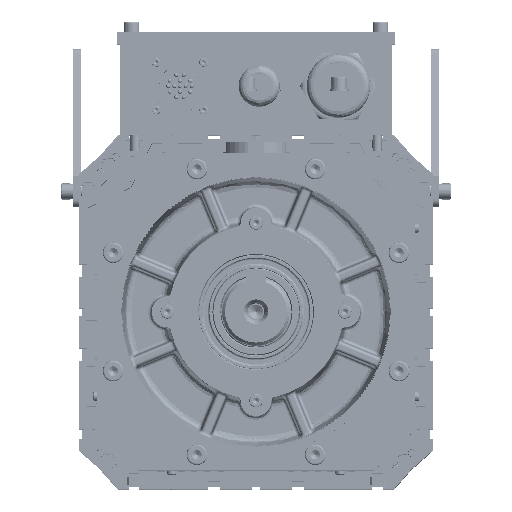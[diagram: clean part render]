
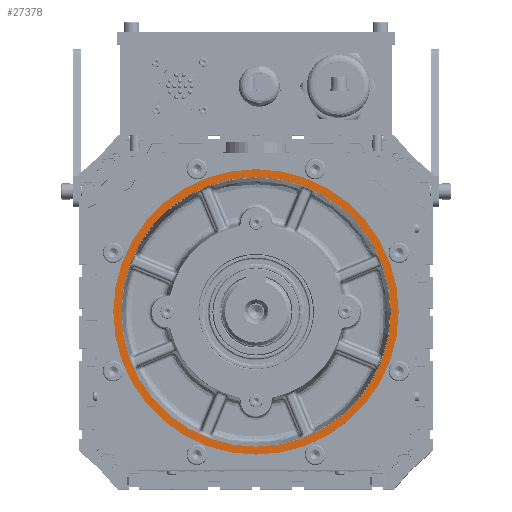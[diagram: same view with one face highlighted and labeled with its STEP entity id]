
A CAD part, top view. The second image highlights one B-rep face of the part: STEP entity #27378.
In plain terms, the highlighted planar face has unit normal (0, 0, 1) as drawn and (0, 0, -1) by its records, which use the part's own axes.
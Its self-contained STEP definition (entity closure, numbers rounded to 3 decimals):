
#1946 = CARTESIAN_POINT ( 'NONE',  ( -28.364, -115.305, 205. ) ) ;
#13423 = DIRECTION ( 'NONE',  ( 0., 0., 1. ) ) ;
#27378 = ADVANCED_FACE ( 'NONE', ( #136043, #110936 ), #33177, .F. ) ;
#30022 = ORIENTED_EDGE ( 'NONE', *, *, #156655, .F. ) ;
#33177 = PLANE ( 'NONE',  #43326 ) ;
#34958 = CIRCLE ( 'NONE', #63454, 85. ) ;
#36395 = EDGE_CURVE ( 'NONE', #96378, #187359, #152754, .T. ) ;
#43326 = AXIS2_PLACEMENT_3D ( 'NONE', #1946, #135421, #76626 ) ;
#52032 = AXIS2_PLACEMENT_3D ( 'NONE', #56883, #13423, #146318 ) ;
#53402 = DIRECTION ( 'NONE',  ( -1., 0., 0. ) ) ;
#56883 = CARTESIAN_POINT ( 'NONE',  ( -28.364, -25.305, 205. ) ) ;
#62925 = DIRECTION ( 'NONE',  ( 0., 0., -1. ) ) ;
#63454 = AXIS2_PLACEMENT_3D ( 'NONE', #166398, #62925, #178554 ) ;
#69366 = CIRCLE ( 'NONE', #137086, 90. ) ;
#76626 = DIRECTION ( 'NONE',  ( 1., 0., 0. ) ) ;
#79735 = EDGE_CURVE ( 'NONE', #141897, #100064, #188813, .T. ) ;
#80195 = EDGE_LOOP ( 'NONE', ( #93120, #154044 ) ) ;
#82126 = CARTESIAN_POINT ( 'NONE',  ( 56.636, -25.305, 205. ) ) ;
#93120 = ORIENTED_EDGE ( 'NONE', *, *, #79735, .F. ) ;
#94075 = EDGE_CURVE ( 'NONE', #100064, #141897, #69366, .T. ) ;
#96378 = VERTEX_POINT ( 'NONE', #171768 ) ;
#100064 = VERTEX_POINT ( 'NONE', #147013 ) ;
#110936 = FACE_BOUND ( 'NONE', #146577, .T. ) ;
#111915 = CARTESIAN_POINT ( 'NONE',  ( -28.364, -25.305, 205. ) ) ;
#119815 = CARTESIAN_POINT ( 'NONE',  ( -118.364, -25.305, 205. ) ) ;
#135421 = DIRECTION ( 'NONE',  ( 0., 0., 1. ) ) ;
#136043 = FACE_OUTER_BOUND ( 'NONE', #80195, .T. ) ;
#137086 = AXIS2_PLACEMENT_3D ( 'NONE', #111915, #156604, #143251 ) ;
#139750 = CARTESIAN_POINT ( 'NONE',  ( -28.364, -25.305, 205. ) ) ;
#141897 = VERTEX_POINT ( 'NONE', #119815 ) ;
#143251 = DIRECTION ( 'NONE',  ( -1., 0., 0. ) ) ;
#146318 = DIRECTION ( 'NONE',  ( -1., 0., 0. ) ) ;
#146577 = EDGE_LOOP ( 'NONE', ( #183248, #30022 ) ) ;
#147013 = CARTESIAN_POINT ( 'NONE',  ( 61.636, -25.305, 205. ) ) ;
#152754 = CIRCLE ( 'NONE', #178386, 85. ) ;
#154044 = ORIENTED_EDGE ( 'NONE', *, *, #94075, .F. ) ;
#156604 = DIRECTION ( 'NONE',  ( 0., 0., 1. ) ) ;
#156655 = EDGE_CURVE ( 'NONE', #187359, #96378, #34958, .T. ) ;
#156890 = DIRECTION ( 'NONE',  ( 0., 0., -1. ) ) ;
#166398 = CARTESIAN_POINT ( 'NONE',  ( -28.364, -25.305, 205. ) ) ;
#171768 = CARTESIAN_POINT ( 'NONE',  ( -113.364, -25.305, 205. ) ) ;
#178386 = AXIS2_PLACEMENT_3D ( 'NONE', #139750, #156890, #53402 ) ;
#178554 = DIRECTION ( 'NONE',  ( -1., 0., 0. ) ) ;
#183248 = ORIENTED_EDGE ( 'NONE', *, *, #36395, .F. ) ;
#187359 = VERTEX_POINT ( 'NONE', #82126 ) ;
#188813 = CIRCLE ( 'NONE', #52032, 90. ) ;
